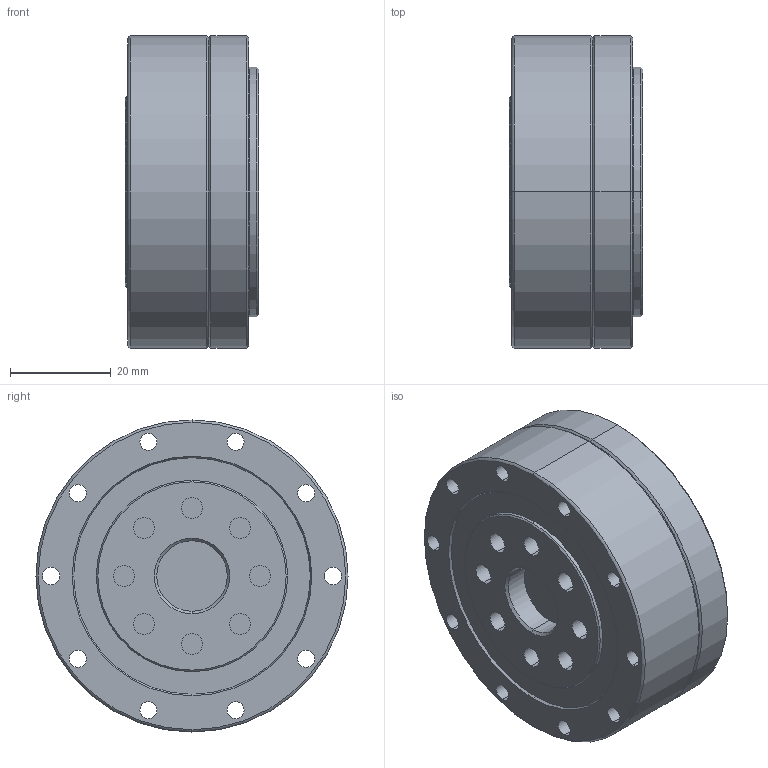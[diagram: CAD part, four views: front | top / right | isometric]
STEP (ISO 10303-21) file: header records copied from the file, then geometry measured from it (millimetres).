
FILE_DESCRIPTION (( 'STEP AP203' ), '1' );
FILE_NAME ('BCD-17-XXX-U-¢ñ.STEP', '2019-01-15T02:37:10', ( 'User' ), ( 'China' ), 'SwSTEP 2.0', 'SolidWorks 2015', '' );
FILE_SCHEMA (( 'CONFIG_CONTROL_DESIGN' ));
Length unit declared in the file: millimetre
Products named in the file (1): BCD-17-XXX-U-ｉ
Bounding box: 26.5 x 62 x 62 mm (x, y, z)
Surface area: 23013.5 mm2 (no closed solid volume)
Topology: 0 solids, 31 shells, 378 faces, 1230 edges, 807 vertices
Faces by surface type: cylinder 114, plane 82, cone 74, torus 64, sphere 44
Entity records: 12943 total; most frequent: CARTESIAN_POINT 2802, DIRECTION 2214, ORIENTED_EDGE 1900, EDGE_CURVE 1094, AXIS2_PLACEMENT_3D 909, VERTEX_POINT 741, CIRCLE 530, EDGE_LOOP 463
